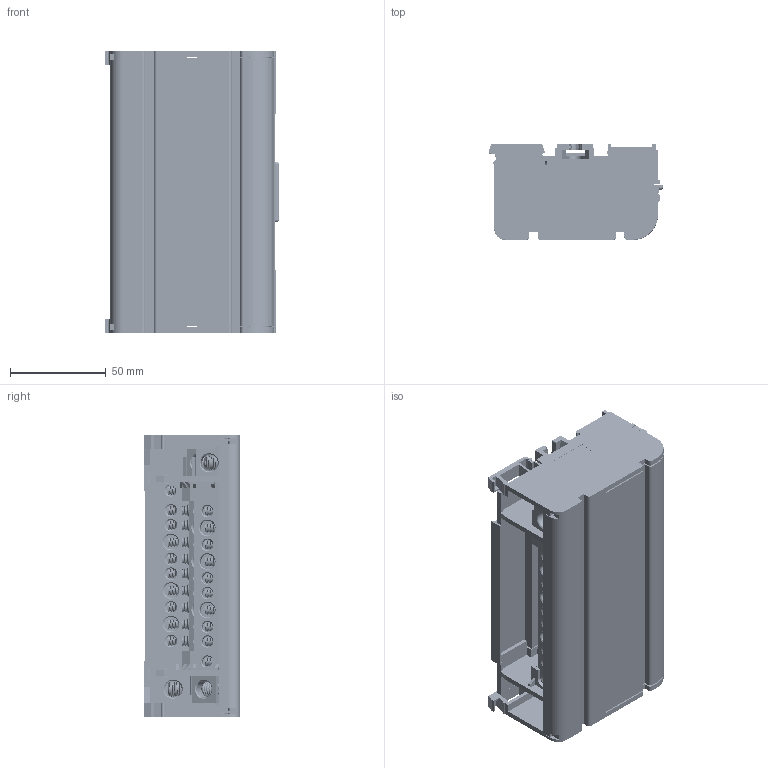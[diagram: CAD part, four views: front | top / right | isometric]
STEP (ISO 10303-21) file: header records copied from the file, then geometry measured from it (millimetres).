
FILE_DESCRIPTION(/* description */ (''),/* implementation_level */ '2;1');
FILE_NAME(/* name */ 'UK411.stp',/* time_stamp */ '2019-12-10T14:52:58+08:00',/* author */ (''),/* organization */ (''),/* preprocessor_version */ 'ST-DEVELOPER v16',/* originating_system */ 'SIEMENS PLM Software NX 10.0',/* authorisation */ '');
FILE_SCHEMA (('AUTOMOTIVE_DESIGN { 1 0 10303 214 3 1 1 1 }'));
Products named in the file (1): Admi1A6064079uzq
Bounding box: 91.01 x 50 x 147 mm (x, y, z)
Volume: 160260.3 mm3; surface area: 179169.1 mm2
Topology: 66 solids, 66 shells, 2607 faces, 7329 edges, 4852 vertices
Faces by surface type: plane 1828, cylinder 401, bspline 216, cone 116, torus 44, sphere 2
Full cylindrical faces by diameter (mm): 4.3 x44, 5.5 x28, 6 x4, 6.5 x40, 7.7 x12, 8 x4, 9 x4
Entity records: 249430 total; most frequent: CARTESIAN_POINT 179526, ORIENTED_EDGE 13646, DIRECTION 11371, EDGE_CURVE 6823, VERTEX_POINT 4640, LINE 4625, VECTOR 4625, AXIS2_PLACEMENT_3D 3373
